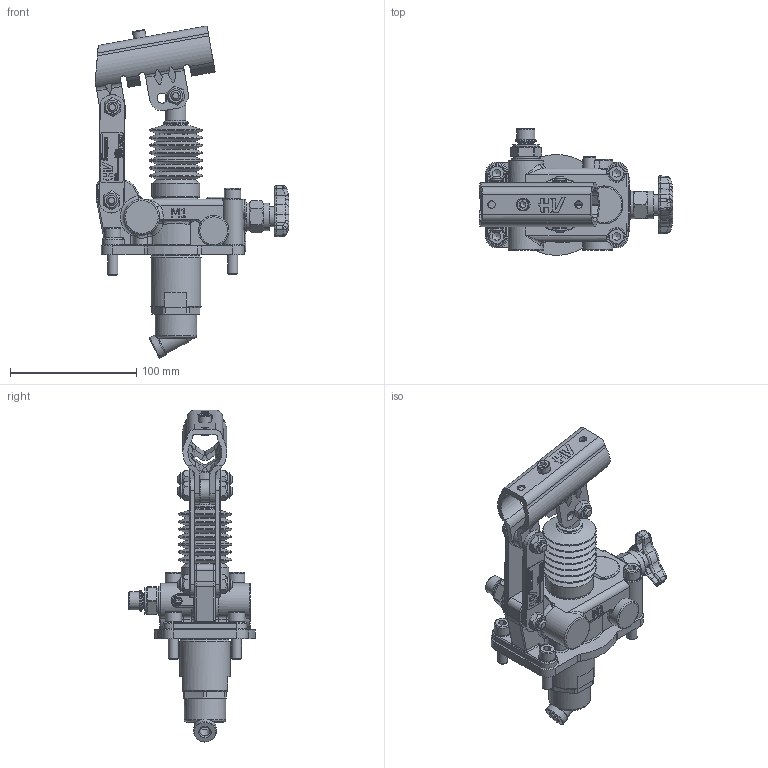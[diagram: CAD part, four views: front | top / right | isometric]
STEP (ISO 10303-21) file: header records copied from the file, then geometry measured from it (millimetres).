
FILE_DESCRIPTION((''),'2;1');
FILE_NAME('G:\HV_HYDRAULIC\AZIENDA_HV_HYDRAULIC\ARCHIVIO_DISEGNI\5_PRODOTTI_FINITI\1_POMPE_MANUALI\6069_PMSE_40\6069.0037_PMSE_40_s_(HV)\6069.0037.stp','2024-03-26T08:16:54',('christian.scardovi'),(''),'Autodesk Inventor 2013','Autodesk Inventor 2013','');
FILE_SCHEMA(('AUTOMOTIVE_DESIGN { 1 0 10303 214 1 1 1 1 }'));
Length unit declared in the file: millimetre
Products named in the file (1): 6069.0037
Bounding box: 153.43 x 100.5 x 263.06 mm (x, y, z)
Volume: 478522.5 mm3; surface area: 121371.4 mm2
Topology: 3 solids, 3 shells, 1675 faces, 4235 edges, 2655 vertices
Faces by surface type: plane 764, cylinder 346, bspline 261, torus 152, cone 138, sphere 14
Full cylindrical faces by diameter (mm): 4.917 x6, 5 x5, 6 x5, 6.5 x1, 8 x15, 9 x2, 9.2 x1, 10 x3, 11.05 x6, 12 x4, 13 x4, 13.2 x1, 13.5 x1, 14 x4, 14.5 x1, 14.95 x2, 16 x2, 16.5 x1, 18 x4, 20 x1, 21 x2, 21.8 x2, 22 x1, 23 x2, 24 x1, 28 x3, 30 x1, 30.3 x1, 30.6 x1, 31 x1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
Entity records: 58466 total; most frequent: CARTESIAN_POINT 19484, ORIENTED_EDGE 7868, DIRECTION 7143, EDGE_CURVE 3934, VERTEX_POINT 2581, AXIS2_PLACEMENT_3D 2559, VECTOR 2025, LINE 2025
